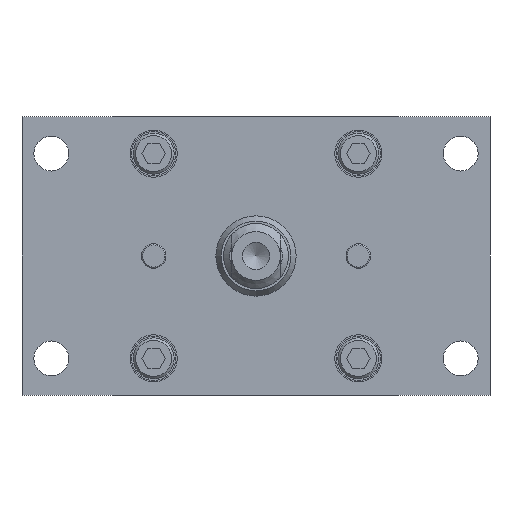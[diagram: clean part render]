
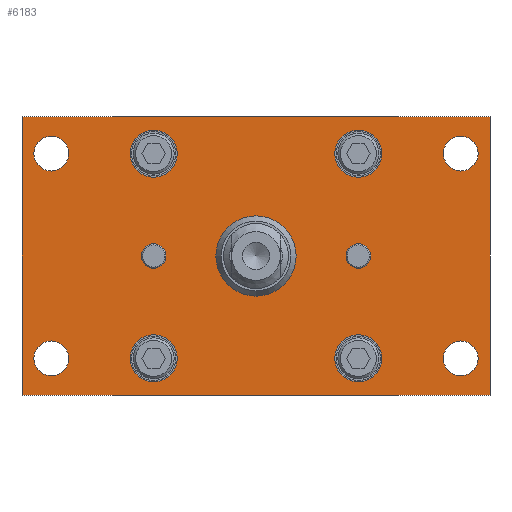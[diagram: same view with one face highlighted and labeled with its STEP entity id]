
A CAD part, front view. The second image highlights one B-rep face of the part: STEP entity #6183.
In plain terms, the highlighted planar face has unit normal (0, -1, 0) as drawn and (0, 0, -1) by its records, which use the part's own axes.
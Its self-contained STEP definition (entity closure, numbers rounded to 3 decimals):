
#159=FACE_BOUND('',#2172,.T.);
#160=FACE_BOUND('',#2173,.T.);
#161=FACE_BOUND('',#2174,.T.);
#162=FACE_BOUND('',#2175,.T.);
#163=FACE_BOUND('',#2176,.T.);
#164=FACE_BOUND('',#2177,.T.);
#165=FACE_BOUND('',#2178,.T.);
#166=FACE_BOUND('',#2179,.T.);
#167=FACE_BOUND('',#2180,.T.);
#168=FACE_BOUND('',#2181,.T.);
#169=FACE_BOUND('',#2182,.T.);
#505=PLANE('',#7021);
#887=LINE('',#10500,#1353);
#890=LINE('',#10505,#1356);
#892=LINE('',#10509,#1358);
#894=LINE('',#10512,#1360);
#1353=VECTOR('',#8515,10.);
#1356=VECTOR('',#8520,10.);
#1358=VECTOR('',#8524,10.);
#1360=VECTOR('',#8528,10.);
#1803=FACE_OUTER_BOUND('',#2171,.T.);
#2171=EDGE_LOOP('',(#5291,#5292,#5293,#5294));
#2172=EDGE_LOOP('',(#5295));
#2173=EDGE_LOOP('',(#5296,#5297));
#2174=EDGE_LOOP('',(#5298,#5299));
#2175=EDGE_LOOP('',(#5300,#5301));
#2176=EDGE_LOOP('',(#5302,#5303));
#2177=EDGE_LOOP('',(#5304,#5305));
#2178=EDGE_LOOP('',(#5306,#5307));
#2179=EDGE_LOOP('',(#5308,#5309));
#2180=EDGE_LOOP('',(#5310,#5311));
#2181=EDGE_LOOP('',(#5312,#5313));
#2182=EDGE_LOOP('',(#5314,#5315));
#2482=CIRCLE('',#6911,9.804);
#2519=CIRCLE('',#6962,3.);
#2520=CIRCLE('',#6963,3.);
#2521=CIRCLE('',#6965,3.);
#2522=CIRCLE('',#6966,3.);
#2523=CIRCLE('',#6968,4.25);
#2524=CIRCLE('',#6969,4.25);
#2525=CIRCLE('',#6971,4.25);
#2526=CIRCLE('',#6972,4.25);
#2527=CIRCLE('',#6974,4.25);
#2528=CIRCLE('',#6975,4.25);
#2529=CIRCLE('',#6977,4.25);
#2530=CIRCLE('',#6978,4.25);
#2536=CIRCLE('',#6989,5.75);
#2537=CIRCLE('',#6990,5.75);
#2541=CIRCLE('',#6997,5.75);
#2542=CIRCLE('',#6998,5.75);
#2546=CIRCLE('',#7005,5.75);
#2547=CIRCLE('',#7006,5.75);
#2551=CIRCLE('',#7013,5.75);
#2552=CIRCLE('',#7014,5.75);
#3027=VERTEX_POINT('',#10293);
#3066=VERTEX_POINT('',#10393);
#3067=VERTEX_POINT('',#10394);
#3068=VERTEX_POINT('',#10399);
#3069=VERTEX_POINT('',#10400);
#3070=VERTEX_POINT('',#10405);
#3071=VERTEX_POINT('',#10406);
#3072=VERTEX_POINT('',#10411);
#3073=VERTEX_POINT('',#10412);
#3074=VERTEX_POINT('',#10417);
#3075=VERTEX_POINT('',#10418);
#3076=VERTEX_POINT('',#10423);
#3077=VERTEX_POINT('',#10424);
#3083=VERTEX_POINT('',#10445);
#3084=VERTEX_POINT('',#10446);
#3088=VERTEX_POINT('',#10460);
#3089=VERTEX_POINT('',#10461);
#3093=VERTEX_POINT('',#10475);
#3094=VERTEX_POINT('',#10476);
#3098=VERTEX_POINT('',#10490);
#3099=VERTEX_POINT('',#10491);
#3100=VERTEX_POINT('',#10498);
#3101=VERTEX_POINT('',#10499);
#3102=VERTEX_POINT('',#10504);
#3103=VERTEX_POINT('',#10508);
#3789=EDGE_CURVE('',#3027,#3027,#2482,.T.);
#3836=EDGE_CURVE('',#3066,#3067,#2519,.T.);
#3837=EDGE_CURVE('',#3067,#3066,#2520,.T.);
#3839=EDGE_CURVE('',#3068,#3069,#2521,.T.);
#3840=EDGE_CURVE('',#3069,#3068,#2522,.T.);
#3842=EDGE_CURVE('',#3070,#3071,#2523,.T.);
#3843=EDGE_CURVE('',#3071,#3070,#2524,.T.);
#3845=EDGE_CURVE('',#3072,#3073,#2525,.T.);
#3846=EDGE_CURVE('',#3073,#3072,#2526,.T.);
#3848=EDGE_CURVE('',#3074,#3075,#2527,.T.);
#3849=EDGE_CURVE('',#3075,#3074,#2528,.T.);
#3851=EDGE_CURVE('',#3076,#3077,#2529,.T.);
#3852=EDGE_CURVE('',#3077,#3076,#2530,.T.);
#3861=EDGE_CURVE('',#3083,#3084,#2536,.T.);
#3862=EDGE_CURVE('',#3084,#3083,#2537,.T.);
#3868=EDGE_CURVE('',#3088,#3089,#2541,.T.);
#3869=EDGE_CURVE('',#3089,#3088,#2542,.T.);
#3875=EDGE_CURVE('',#3093,#3094,#2546,.T.);
#3876=EDGE_CURVE('',#3094,#3093,#2547,.T.);
#3882=EDGE_CURVE('',#3098,#3099,#2551,.T.);
#3883=EDGE_CURVE('',#3099,#3098,#2552,.T.);
#3886=EDGE_CURVE('',#3100,#3101,#887,.T.);
#3889=EDGE_CURVE('',#3102,#3100,#890,.T.);
#3891=EDGE_CURVE('',#3103,#3102,#892,.T.);
#3893=EDGE_CURVE('',#3101,#3103,#894,.T.);
#5291=ORIENTED_EDGE('',*,*,#3893,.F.);
#5292=ORIENTED_EDGE('',*,*,#3886,.F.);
#5293=ORIENTED_EDGE('',*,*,#3889,.F.);
#5294=ORIENTED_EDGE('',*,*,#3891,.F.);
#5295=ORIENTED_EDGE('',*,*,#3789,.T.);
#5296=ORIENTED_EDGE('',*,*,#3836,.T.);
#5297=ORIENTED_EDGE('',*,*,#3837,.T.);
#5298=ORIENTED_EDGE('',*,*,#3839,.T.);
#5299=ORIENTED_EDGE('',*,*,#3840,.T.);
#5300=ORIENTED_EDGE('',*,*,#3842,.T.);
#5301=ORIENTED_EDGE('',*,*,#3843,.T.);
#5302=ORIENTED_EDGE('',*,*,#3845,.T.);
#5303=ORIENTED_EDGE('',*,*,#3846,.T.);
#5304=ORIENTED_EDGE('',*,*,#3848,.T.);
#5305=ORIENTED_EDGE('',*,*,#3849,.T.);
#5306=ORIENTED_EDGE('',*,*,#3851,.T.);
#5307=ORIENTED_EDGE('',*,*,#3852,.T.);
#5308=ORIENTED_EDGE('',*,*,#3861,.T.);
#5309=ORIENTED_EDGE('',*,*,#3862,.T.);
#5310=ORIENTED_EDGE('',*,*,#3868,.T.);
#5311=ORIENTED_EDGE('',*,*,#3869,.T.);
#5312=ORIENTED_EDGE('',*,*,#3875,.T.);
#5313=ORIENTED_EDGE('',*,*,#3876,.T.);
#5314=ORIENTED_EDGE('',*,*,#3882,.T.);
#5315=ORIENTED_EDGE('',*,*,#3883,.T.);
#6183=ADVANCED_FACE('',(#1803,#159,#160,#161,#162,#163,#164,#165,#166,#167,
#168,#169),#505,.F.);
#6911=AXIS2_PLACEMENT_3D('',#10294,#8277,#8278);
#6962=AXIS2_PLACEMENT_3D('',#10395,#8389,#8390);
#6963=AXIS2_PLACEMENT_3D('',#10396,#8391,#8392);
#6965=AXIS2_PLACEMENT_3D('',#10401,#8396,#8397);
#6966=AXIS2_PLACEMENT_3D('',#10402,#8398,#8399);
#6968=AXIS2_PLACEMENT_3D('',#10407,#8403,#8404);
#6969=AXIS2_PLACEMENT_3D('',#10408,#8405,#8406);
#6971=AXIS2_PLACEMENT_3D('',#10413,#8410,#8411);
#6972=AXIS2_PLACEMENT_3D('',#10414,#8412,#8413);
#6974=AXIS2_PLACEMENT_3D('',#10419,#8417,#8418);
#6975=AXIS2_PLACEMENT_3D('',#10420,#8419,#8420);
#6977=AXIS2_PLACEMENT_3D('',#10425,#8424,#8425);
#6978=AXIS2_PLACEMENT_3D('',#10426,#8426,#8427);
#6989=AXIS2_PLACEMENT_3D('',#10447,#8451,#8452);
#6990=AXIS2_PLACEMENT_3D('',#10448,#8453,#8454);
#6997=AXIS2_PLACEMENT_3D('',#10462,#8469,#8470);
#6998=AXIS2_PLACEMENT_3D('',#10463,#8471,#8472);
#7005=AXIS2_PLACEMENT_3D('',#10477,#8487,#8488);
#7006=AXIS2_PLACEMENT_3D('',#10478,#8489,#8490);
#7013=AXIS2_PLACEMENT_3D('',#10492,#8505,#8506);
#7014=AXIS2_PLACEMENT_3D('',#10493,#8507,#8508);
#7021=AXIS2_PLACEMENT_3D('',#10514,#8531,#8532);
#8277=DIRECTION('center_axis',(0.,0.,1.));
#8278=DIRECTION('ref_axis',(1.,0.,0.));
#8389=DIRECTION('center_axis',(0.,0.,1.));
#8390=DIRECTION('ref_axis',(-1.,0.,0.));
#8391=DIRECTION('center_axis',(0.,0.,1.));
#8392=DIRECTION('ref_axis',(-1.,0.,0.));
#8396=DIRECTION('center_axis',(0.,0.,1.));
#8397=DIRECTION('ref_axis',(-1.,0.,0.));
#8398=DIRECTION('center_axis',(0.,0.,1.));
#8399=DIRECTION('ref_axis',(-1.,0.,0.));
#8403=DIRECTION('center_axis',(0.,0.,1.));
#8404=DIRECTION('ref_axis',(-1.,0.,0.));
#8405=DIRECTION('center_axis',(0.,0.,1.));
#8406=DIRECTION('ref_axis',(-1.,0.,0.));
#8410=DIRECTION('center_axis',(0.,0.,1.));
#8411=DIRECTION('ref_axis',(-1.,0.,0.));
#8412=DIRECTION('center_axis',(0.,0.,1.));
#8413=DIRECTION('ref_axis',(-1.,0.,0.));
#8417=DIRECTION('center_axis',(0.,0.,1.));
#8418=DIRECTION('ref_axis',(-1.,0.,0.));
#8419=DIRECTION('center_axis',(0.,0.,1.));
#8420=DIRECTION('ref_axis',(-1.,0.,0.));
#8424=DIRECTION('center_axis',(0.,0.,1.));
#8425=DIRECTION('ref_axis',(-1.,0.,0.));
#8426=DIRECTION('center_axis',(0.,0.,1.));
#8427=DIRECTION('ref_axis',(-1.,0.,0.));
#8451=DIRECTION('center_axis',(0.,0.,1.));
#8452=DIRECTION('ref_axis',(-1.,0.,0.));
#8453=DIRECTION('center_axis',(0.,0.,1.));
#8454=DIRECTION('ref_axis',(-1.,0.,0.));
#8469=DIRECTION('center_axis',(0.,0.,1.));
#8470=DIRECTION('ref_axis',(-1.,0.,0.));
#8471=DIRECTION('center_axis',(0.,0.,1.));
#8472=DIRECTION('ref_axis',(-1.,0.,0.));
#8487=DIRECTION('center_axis',(0.,0.,1.));
#8488=DIRECTION('ref_axis',(-1.,0.,0.));
#8489=DIRECTION('center_axis',(0.,0.,1.));
#8490=DIRECTION('ref_axis',(-1.,0.,0.));
#8505=DIRECTION('center_axis',(0.,0.,1.));
#8506=DIRECTION('ref_axis',(-1.,0.,0.));
#8507=DIRECTION('center_axis',(0.,0.,1.));
#8508=DIRECTION('ref_axis',(-1.,0.,0.));
#8515=DIRECTION('',(-1.,0.,0.));
#8520=DIRECTION('',(0.,1.,0.));
#8524=DIRECTION('',(1.,0.,0.));
#8528=DIRECTION('',(0.,-1.,0.));
#8531=DIRECTION('center_axis',(0.,0.,1.));
#8532=DIRECTION('ref_axis',(1.,0.,0.));
#10293=CARTESIAN_POINT('',(-9.804,0.,0.));
#10294=CARTESIAN_POINT('Origin',(0.,0.,0.));
#10393=CARTESIAN_POINT('',(-28.,0.,0.));
#10394=CARTESIAN_POINT('',(-22.,0.,0.));
#10395=CARTESIAN_POINT('Origin',(-25.,0.,0.));
#10396=CARTESIAN_POINT('Origin',(-25.,0.,0.));
#10399=CARTESIAN_POINT('',(22.,0.,0.));
#10400=CARTESIAN_POINT('',(28.,0.,0.));
#10401=CARTESIAN_POINT('Origin',(25.,0.,0.));
#10402=CARTESIAN_POINT('Origin',(25.,0.,0.));
#10405=CARTESIAN_POINT('',(45.75,25.,0.));
#10406=CARTESIAN_POINT('',(54.25,25.,0.));
#10407=CARTESIAN_POINT('Origin',(50.,25.,0.));
#10408=CARTESIAN_POINT('Origin',(50.,25.,0.));
#10411=CARTESIAN_POINT('',(-54.25,-25.,0.));
#10412=CARTESIAN_POINT('',(-45.75,-25.,0.));
#10413=CARTESIAN_POINT('Origin',(-50.,-25.,0.));
#10414=CARTESIAN_POINT('Origin',(-50.,-25.,0.));
#10417=CARTESIAN_POINT('',(-54.25,25.,0.));
#10418=CARTESIAN_POINT('',(-45.75,25.,0.));
#10419=CARTESIAN_POINT('Origin',(-50.,25.,0.));
#10420=CARTESIAN_POINT('Origin',(-50.,25.,0.));
#10423=CARTESIAN_POINT('',(45.75,-25.,0.));
#10424=CARTESIAN_POINT('',(54.25,-25.,0.));
#10425=CARTESIAN_POINT('Origin',(50.,-25.,0.));
#10426=CARTESIAN_POINT('Origin',(50.,-25.,0.));
#10445=CARTESIAN_POINT('',(19.25,25.,0.));
#10446=CARTESIAN_POINT('',(30.75,25.,0.));
#10447=CARTESIAN_POINT('Origin',(25.,25.,0.));
#10448=CARTESIAN_POINT('Origin',(25.,25.,0.));
#10460=CARTESIAN_POINT('',(-30.75,-25.,0.));
#10461=CARTESIAN_POINT('',(-19.25,-25.,0.));
#10462=CARTESIAN_POINT('Origin',(-25.,-25.,0.));
#10463=CARTESIAN_POINT('Origin',(-25.,-25.,0.));
#10475=CARTESIAN_POINT('',(19.25,-25.,0.));
#10476=CARTESIAN_POINT('',(30.75,-25.,0.));
#10477=CARTESIAN_POINT('Origin',(25.,-25.,0.));
#10478=CARTESIAN_POINT('Origin',(25.,-25.,0.));
#10490=CARTESIAN_POINT('',(-30.75,25.,0.));
#10491=CARTESIAN_POINT('',(-19.25,25.,0.));
#10492=CARTESIAN_POINT('Origin',(-25.,25.,0.));
#10493=CARTESIAN_POINT('Origin',(-25.,25.,0.));
#10498=CARTESIAN_POINT('',(57.15,34.,0.));
#10499=CARTESIAN_POINT('',(-57.15,34.,0.));
#10500=CARTESIAN_POINT('',(57.15,34.,0.));
#10504=CARTESIAN_POINT('',(57.15,-34.,0.));
#10505=CARTESIAN_POINT('',(57.15,-34.,0.));
#10508=CARTESIAN_POINT('',(-57.15,-34.,0.));
#10509=CARTESIAN_POINT('',(-57.15,-34.,0.));
#10512=CARTESIAN_POINT('',(-57.15,34.,0.));
#10514=CARTESIAN_POINT('Origin',(0.,0.,
0.));
